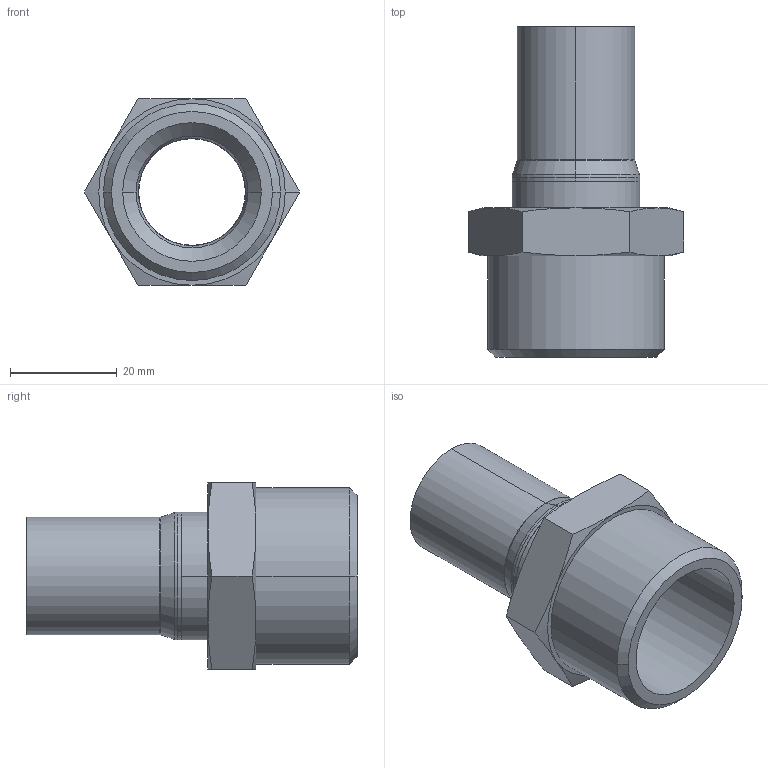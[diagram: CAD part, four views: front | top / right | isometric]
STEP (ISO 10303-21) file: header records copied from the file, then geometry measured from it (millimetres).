
FILE_DESCRIPTION (( 'STEP AP203' ), '1' );
FILE_NAME ('GDA6367.STEP', '2019-07-03T06:15:40', ( '' ), ( '' ), 'SwSTEP 2.0', 'SolidWorks 2015', '' );
FILE_SCHEMA (( 'CONFIG_CONTROL_DESIGN' ));
Length unit declared in the file: millimetre
Products named in the file (3): 孺諳眻奪22-24; ETC-¢ñ-03-22¡Á1; GDA6367
Assembly tree (2 placements, depth 2):
  GDA6367
    ETC-¢ñ-03-22¡Á1
    孺諳眻奪22-24
Bounding box: 40.41 x 62 x 35 mm (x, y, z)
Volume: 13958.1 mm3; surface area: 11213.1 mm2
Topology: 2 solids, 2 shells, 58 faces, 120 edges, 68 vertices
Faces by surface type: cone 22, cylinder 16, plane 12, torus 8
Entity records: 1905 total; most frequent: CARTESIAN_POINT 371, DIRECTION 286, ORIENTED_EDGE 240, AXIS2_PLACEMENT_3D 127, EDGE_CURVE 120, VERTEX_POINT 68, EDGE_LOOP 64, CIRCLE 64
